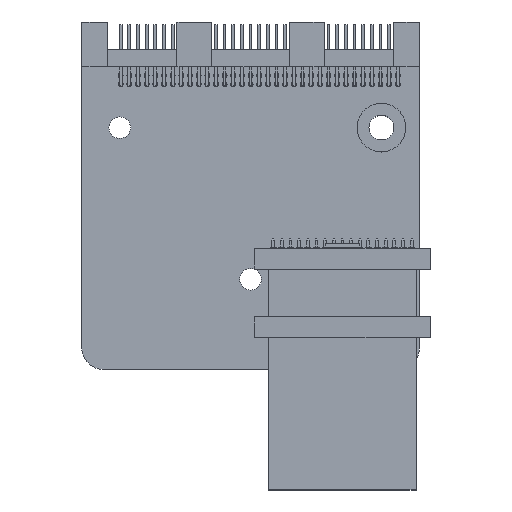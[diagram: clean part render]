
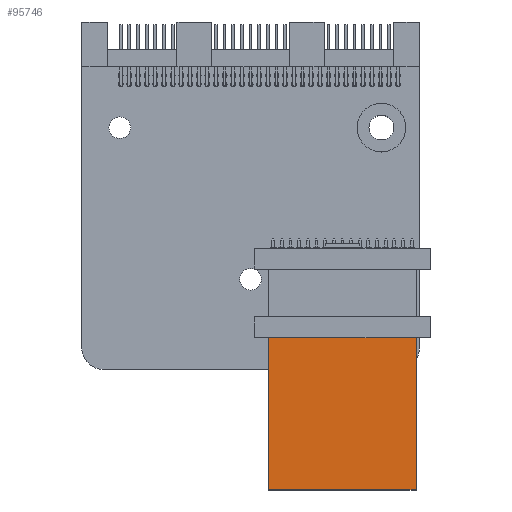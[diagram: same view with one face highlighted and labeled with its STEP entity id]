
A CAD part, top view. The second image highlights one B-rep face of the part: STEP entity #95746.
In plain terms, the highlighted planar face has unit normal (0, 0, 1).
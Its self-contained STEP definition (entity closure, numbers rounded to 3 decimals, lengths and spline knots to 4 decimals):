
#19497=DIRECTION('',(1.,0.,0.));
#19498=VECTOR('',#19497,0.85);
#19499=CARTESIAN_POINT('',(-0.87,-0.212,0.347));
#19500=LINE('',#19499,#19498);
#24469=DIRECTION('',(0.,1.,0.));
#24470=VECTOR('',#24469,0.88);
#24471=CARTESIAN_POINT('',(-0.02,-1.092,0.347));
#24472=LINE('',#24471,#24470);
#24481=DIRECTION('',(0.,1.,0.));
#24482=VECTOR('',#24481,0.88);
#24483=CARTESIAN_POINT('',(-0.87,-1.092,0.347));
#24484=LINE('',#24483,#24482);
#24497=DIRECTION('',(1.,0.,0.));
#24498=VECTOR('',#24497,0.85);
#24499=CARTESIAN_POINT('',(-0.87,-1.092,0.347));
#24500=LINE('',#24499,#24498);
#59277=CARTESIAN_POINT('',(-0.02,-1.092,0.347));
#59279=VERTEX_POINT('',#59277);
#59283=CARTESIAN_POINT('',(-0.87,-1.092,0.347));
#59284=VERTEX_POINT('',#59283);
#59285=CARTESIAN_POINT('',(-0.02,-0.212,0.347));
#59287=VERTEX_POINT('',#59285);
#59291=CARTESIAN_POINT('',(-0.87,-0.212,0.347));
#59292=VERTEX_POINT('',#59291);
#95734=CARTESIAN_POINT('',(-0.87,-1.092,0.347));
#95735=DIRECTION('',(0.,0.,1.));
#95736=DIRECTION('',(1.,0.,0.));
#95737=AXIS2_PLACEMENT_3D('',#95734,#95735,#95736);
#95738=PLANE('',#95737);
#95739=ORIENTED_EDGE('',*,*,#88316,.T.);
#95740=ORIENTED_EDGE('',*,*,#95701,.F.);
#95742=ORIENTED_EDGE('',*,*,#95741,.F.);
#95743=ORIENTED_EDGE('',*,*,#95726,.T.);
#95744=EDGE_LOOP('',(#95739,#95740,#95742,#95743));
#95745=FACE_OUTER_BOUND('',#95744,.F.);
#95746=ADVANCED_FACE('',(#95745),#95738,.T.);
#88316=EDGE_CURVE('',#59292,#59287,#19500,.T.);
#95701=EDGE_CURVE('',#59279,#59287,#24472,.T.);
#95726=EDGE_CURVE('',#59284,#59292,#24484,.T.);
#95741=EDGE_CURVE('',#59284,#59279,#24500,.T.);
